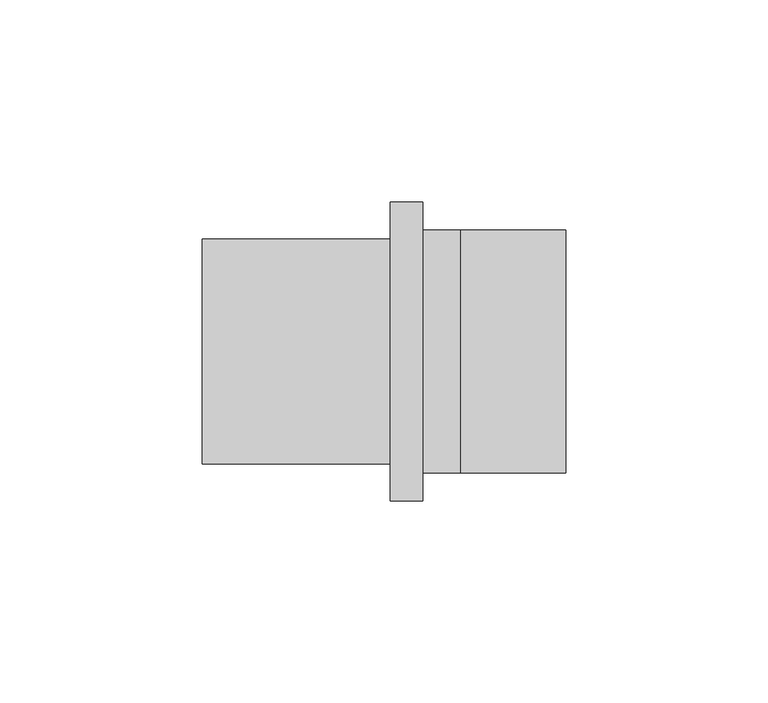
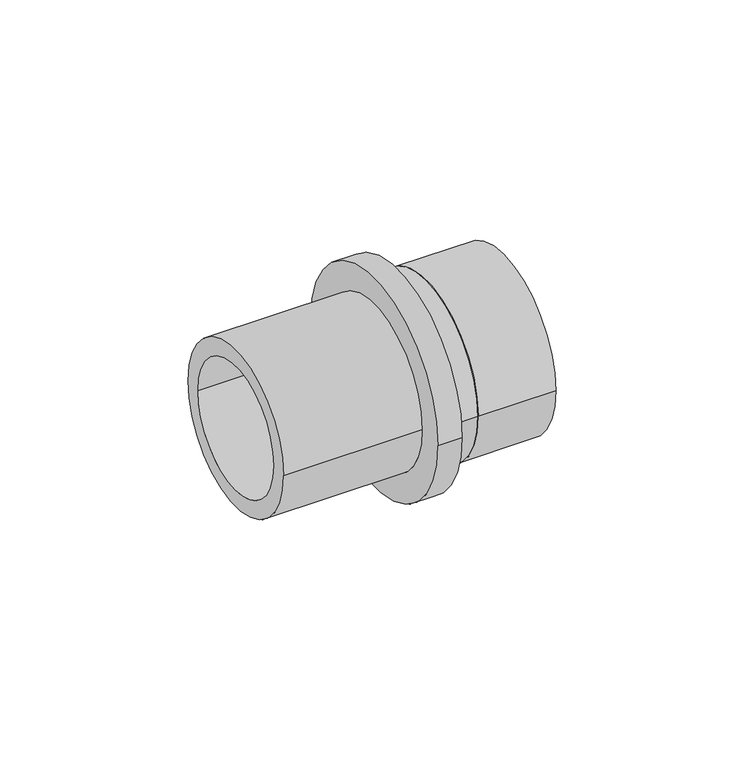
"""IFC4 building model written with IfcOpenShell, lengths in millimetres: pipe fitting geometry, Adapter with welding end : A welding LX."""

from ifc_helpers import new_model, si_unit, point, frame, origin, origin_2d, place, context, project, spatial, polyline, circle_curve, trimmed, segment, composite_curve, outline, extrude, source, transform, mapped, element, save
from ifc_brep_helpers import plane_surface, cylinder_surface, revolved_surface, advanced_brep


def pipe_fitting_768e8c92(model_context):
    return source(origin(), model_context, "Body", "SolidModel", [
        extrude(outline(composite_curve([segment(trimmed(circle_curve(origin_2d(), 30.1), [point((-30.1, 0.0))], [point((30.1, 0.0))], False, "CARTESIAN"), True, "CONTINUOUS"), segment(trimmed(circle_curve(origin_2d(), 30.1), [point((30.1, 0.0))], [point((-30.1, 0.0))], False, "CARTESIAN"), True, "CONTINUOUS")], self_intersect=False), holes=[composite_curve([segment(trimmed(circle_curve(origin_2d(), 27.2), [point((27.2, 0.0))], [point((-27.2, 0.0))], True, "CARTESIAN"), True, "CONTINUOUS"), segment(trimmed(circle_curve(origin_2d(), 27.2), [point((-27.2, 0.0))], [point((27.2, 0.0))], True, "CARTESIAN"), True, "CONTINUOUS")], self_intersect=False)]), frame((0.0, 0.0, 0.0), z_axis=(1.0, 0.0, 0.0), x_axis=(0.0, 1.0, 0.0)), (0.0, 0.0, 1.0), 26.0),
        advanced_brep(
        [(0.0, 30.1, 0.0), (0.0, -30.1, 0.0), (-9.4, -30.1, 0.0), (-9.4, 30.1, 0.0), (-9.4, 27.2, 0.0), (-9.4, -27.2, 0.0), (0.0, -27.2, 0.0), (0.0, 27.2, 0.0), (-64.0, 22.0, 0.0), (-64.0, -22.0, 0.0), (-9.4, -22.0, 0.0), (-9.4, 22.0, 0.0), (-17.5, 27.8, 0.0), (-17.5, -27.8, 0.0), (-64.0, -27.8, 0.0), (-64.0, 27.8, 0.0), (-9.4, 37.0, 0.0), (-9.4, -37.0, 0.0), (-17.5, -37.0, 0.0), (-17.5, 37.0, 0.0)],
        [
            (0, 1, circle_curve(frame((0.0, 0.0, 0.0), z_axis=(-1.0, 0.0, 0.0), x_axis=(0.0, -1.0, 0.0)), 30.1)),
            (1, 2),
            (2, 3, circle_curve(frame((-9.4, 0.0, 0.0), z_axis=(1.0, 0.0, 0.0), x_axis=(0.0, -1.0, 0.0)), 30.1)),
            (3, 0),
            (4, 5, circle_curve(frame((-9.4, 0.0, 0.0), z_axis=(-1.0, 0.0, 0.0), x_axis=(0.0, -1.0, 0.0)), 27.2)),
            (5, 6),
            (6, 7, circle_curve(frame((0.0, 0.0, 0.0), z_axis=(1.0, 0.0, 0.0), x_axis=(0.0, -1.0, 0.0)), 27.2)),
            (7, 4),
            (8, 9, circle_curve(frame((-64.0, 0.0, 0.0), z_axis=(-1.0, 0.0, 0.0), x_axis=(0.0, -1.0, 0.0)), 22.0)),
            (9, 10),
            (10, 11, circle_curve(frame((-9.4, 0.0, 0.0), z_axis=(1.0, 0.0, 0.0), x_axis=(0.0, -1.0, 0.0)), 22.0)),
            (11, 8),
            (12, 13, circle_curve(frame((-17.5, 0.0, 0.0), z_axis=(-1.0, 0.0, 0.0), x_axis=(0.0, -1.0, 0.0)), 27.8)),
            (13, 14),
            (14, 15, circle_curve(frame((-64.0, 0.0, 0.0), z_axis=(1.0, 0.0, 0.0), x_axis=(0.0, -1.0, 0.0)), 27.8)),
            (15, 12),
            (16, 17, circle_curve(frame((-9.4, 0.0, 0.0), z_axis=(-1.0, 0.0, 0.0), x_axis=(0.0, -1.0, 0.0)), 37.0)),
            (17, 18),
            (18, 19, circle_curve(frame((-17.5, 0.0, 0.0), z_axis=(1.0, 0.0, 0.0), x_axis=(0.0, -1.0, 0.0)), 37.0)),
            (19, 16),
            (16, 17, circle_curve(frame((-9.4, 0.0, 0.0), z_axis=(1.0, 0.0, 0.0), x_axis=(0.0, 1.0, 0.0)), 37.0)),
            (2, 3, circle_curve(frame((-9.4, 0.0, 0.0), z_axis=(-1.0, 0.0, 0.0), x_axis=(0.0, 1.0, 0.0)), 30.1)),
            (1, 0, circle_curve(frame((0.0, 0.0, 0.0), z_axis=(-1.0, 0.0, 0.0), x_axis=(0.0, 1.0, 0.0)), 30.1)),
            (6, 7, circle_curve(frame((0.0, 0.0, 0.0), z_axis=(-1.0, 0.0, 0.0), x_axis=(0.0, 1.0, 0.0)), 27.2)),
            (5, 4, circle_curve(frame((-9.4, 0.0, 0.0), z_axis=(-1.0, 0.0, 0.0), x_axis=(0.0, 1.0, 0.0)), 27.2)),
            (10, 11, circle_curve(frame((-9.4, 0.0, 0.0), z_axis=(-1.0, 0.0, 0.0), x_axis=(0.0, 1.0, 0.0)), 22.0)),
            (9, 8, circle_curve(frame((-64.0, 0.0, 0.0), z_axis=(-1.0, 0.0, 0.0), x_axis=(0.0, 1.0, 0.0)), 22.0)),
            (14, 15, circle_curve(frame((-64.0, 0.0, 0.0), z_axis=(-1.0, 0.0, 0.0), x_axis=(0.0, 1.0, 0.0)), 27.8)),
            (13, 12, circle_curve(frame((-17.5, 0.0, 0.0), z_axis=(-1.0, 0.0, 0.0), x_axis=(0.0, 1.0, 0.0)), 27.8)),
            (18, 19, circle_curve(frame((-17.5, 0.0, 0.0), z_axis=(-1.0, 0.0, 0.0), x_axis=(0.0, 1.0, 0.0)), 37.0)),
        ],
        [
            cylinder_surface(frame((0.0, 0.0, 0.0), z_axis=(1.0, 0.0, 0.0), x_axis=(0.0, -1.0, 0.0)), 30.1),
            revolved_surface(polyline([(0.0, -27.2, 0.0), (-9.4, -27.2, 0.0)]), (0.0, 0.0, 0.0), (1.0, 0.0, 0.0)),
            revolved_surface(polyline([(-9.4, -22.0, 0.0), (-64.0, -22.0, 0.0)]), (0.0, 0.0, 0.0), (1.0, 0.0, 0.0)),
            cylinder_surface(frame((0.0, 0.0, 0.0), z_axis=(1.0, 0.0, 0.0), x_axis=(0.0, -1.0, 0.0)), 27.8),
            cylinder_surface(frame((0.0, 0.0, 0.0), z_axis=(1.0, 0.0, 0.0), x_axis=(0.0, -1.0, 0.0)), 37.0),
            plane_surface(frame((-9.4, 0.0, 0.0), z_axis=(1.0, 0.0, 0.0), x_axis=(0.0, 1.0, 0.0))),
            cylinder_surface(frame((0.0, 0.0, 0.0), z_axis=(1.0, 0.0, 0.0), x_axis=(0.0, 1.0, 0.0)), 30.1),
            plane_surface(frame((0.0, 0.0, 0.0), z_axis=(1.0, 0.0, 0.0), x_axis=(0.0, 1.0, 0.0))),
            revolved_surface(polyline([(0.0, 27.2, 0.0), (-9.4, 27.2, 0.0)]), (0.0, 0.0, 0.0), (1.0, 0.0, 0.0)),
            revolved_surface(polyline([(-9.4, 22.0, 0.0), (-64.0, 22.0, 0.0)]), (0.0, 0.0, 0.0), (1.0, 0.0, 0.0)),
            plane_surface(frame((-64.0, 0.0, 0.0), z_axis=(-1.0, 0.0, 0.0), x_axis=(0.0, 1.0, 0.0))),
            cylinder_surface(frame((0.0, 0.0, 0.0), z_axis=(1.0, 0.0, 0.0), x_axis=(0.0, 1.0, 0.0)), 27.8),
            plane_surface(frame((-17.5, 0.0, 0.0), z_axis=(-1.0, 0.0, 0.0), x_axis=(0.0, 1.0, 0.0))),
            cylinder_surface(frame((0.0, 0.0, 0.0), z_axis=(1.0, 0.0, 0.0), x_axis=(0.0, 1.0, 0.0)), 37.0),
        ],
        [
            (0, [[1, 2, 3, 4]]),
            (1, [[5, 6, 7, 8]]),
            (2, [[9, 10, 11, 12]]),
            (3, [[13, 14, 15, 16]]),
            (4, [[17, 18, 19, 20]]),
            (5, [[21, -17], [22, -3]]),
            (6, [[23, -4, -22, -2]]),
            (7, [[-23, -1], [24, -7]]),
            (8, [[25, -8, -24, -6]]),
            (5, [[-25, -5], [26, -11]]),
            (9, [[27, -12, -26, -10]]),
            (10, [[28, -15], [-27, -9]]),
            (11, [[29, -16, -28, -14]]),
            (12, [[30, -19], [-29, -13]]),
            (13, [[-21, -20, -30, -18]]),
        ],
    ),
    ])


if __name__ == "__main__":
    model = new_model("IFC4")
    model_context = context("Model", 3, world=origin())
    ifc_project = project(units=[si_unit("LENGTHUNIT", "METRE", prefix="MILLI")], contexts=[model_context])
    site = spatial("IfcSite", under=ifc_project)
    building = spatial("IfcBuilding", under=site)
    placement = place(None, origin())
    pipe_fitting_shape = pipe_fitting_768e8c92(model_context)
    element("IfcPipeFitting", 1, ObjectType="Adapter with welding end : A welding LX", at=placement, inside=building, context=model_context, shape_type="MappedRepresentation", body=[
        mapped(pipe_fitting_shape, transform((0.0, 0.0, 0.0), x_axis=(1.0, 0.0, 0.0), y_axis=(0.0, 1.0, 0.0), z_axis=(0.0, 0.0, 1.0))),
    ])
    save(model, "model.ifc")
